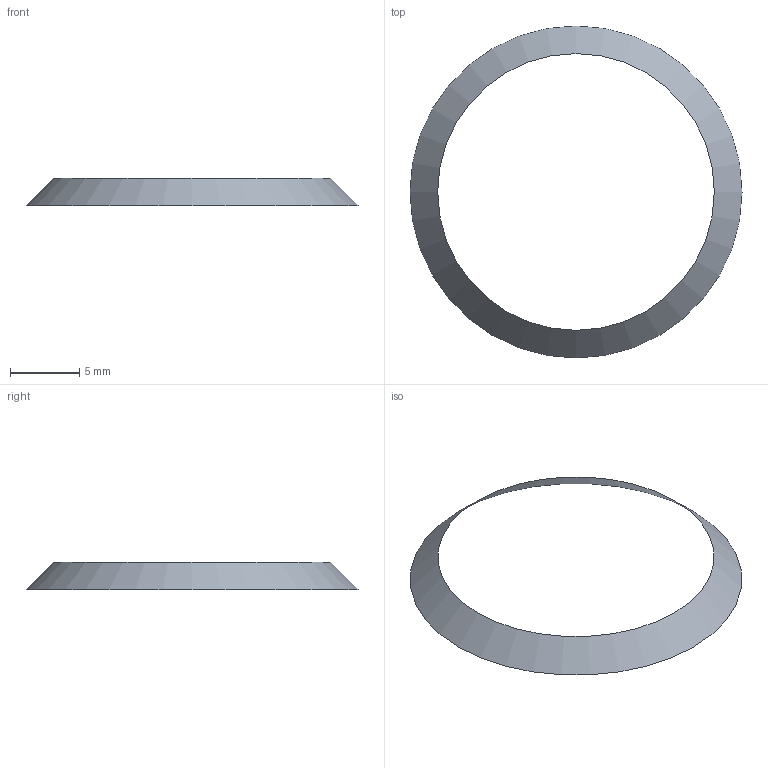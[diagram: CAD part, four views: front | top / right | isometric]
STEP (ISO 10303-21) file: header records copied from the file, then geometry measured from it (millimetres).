
FILE_DESCRIPTION(('BRL-CAD AP214 conical closed-edge band fixture'),'2;1');
FILE_NAME('ap214_conical_closed_edge_band.stp','2026-07-20T00:00:00',('BRL-CAD'),('BRL-CAD'),'','','');
FILE_SCHEMA(('AUTOMOTIVE_DESIGN { 1 0 10303 214 3 1 1 1 }'));
Length unit declared in the file: millimetre
Products named in the file (1): conical_closed_edge_band
Bounding box: 24 x 24 x 2 mm (x, y, z)
Surface area: 195.5 mm2 (no closed solid volume)
Topology: 0 solids, 1 shells, 1 faces, 4 edges, 3 vertices
Faces by surface type: cone 1
Entity records: 44 total; most frequent: CARTESIAN_POINT 5, ORIENTED_EDGE 5, DIRECTION 4, EDGE_CURVE 4, VERTEX_POINT 3, AXIS2_PLACEMENT_3D 2, CIRCLE 2, VECTOR 1
